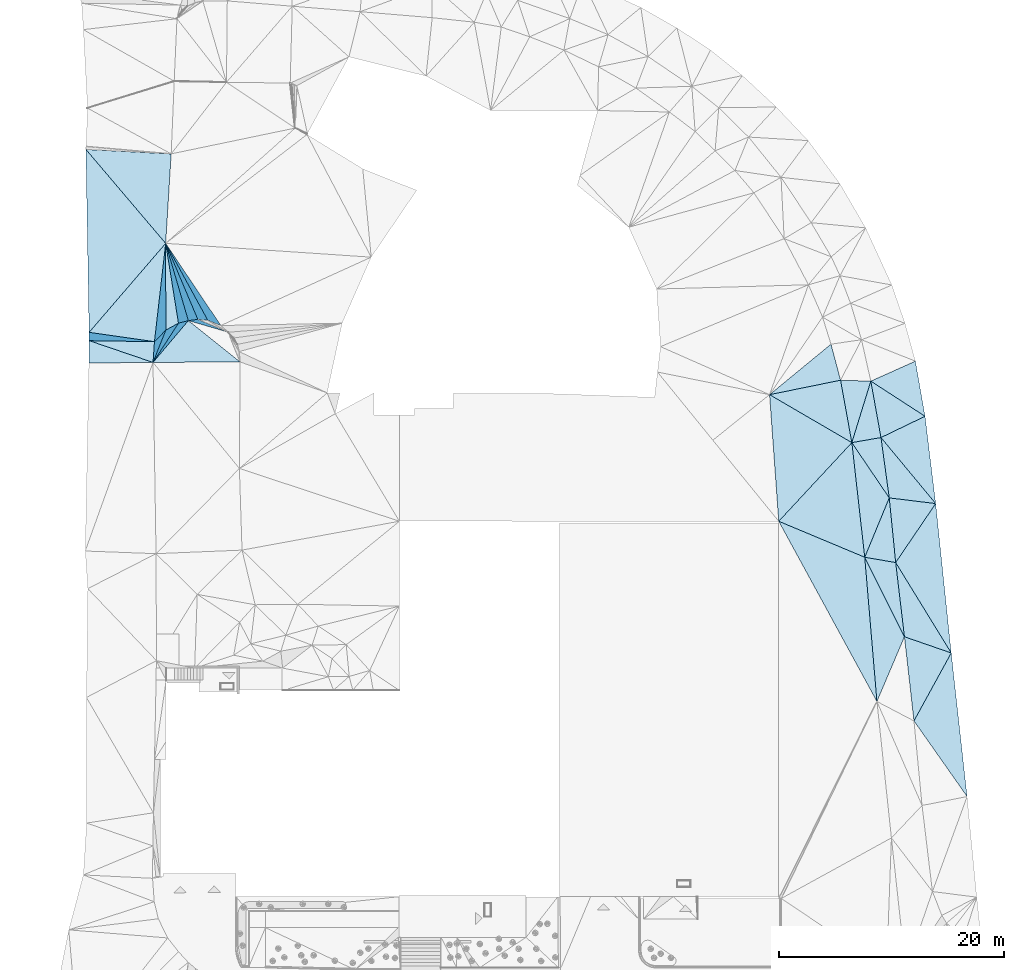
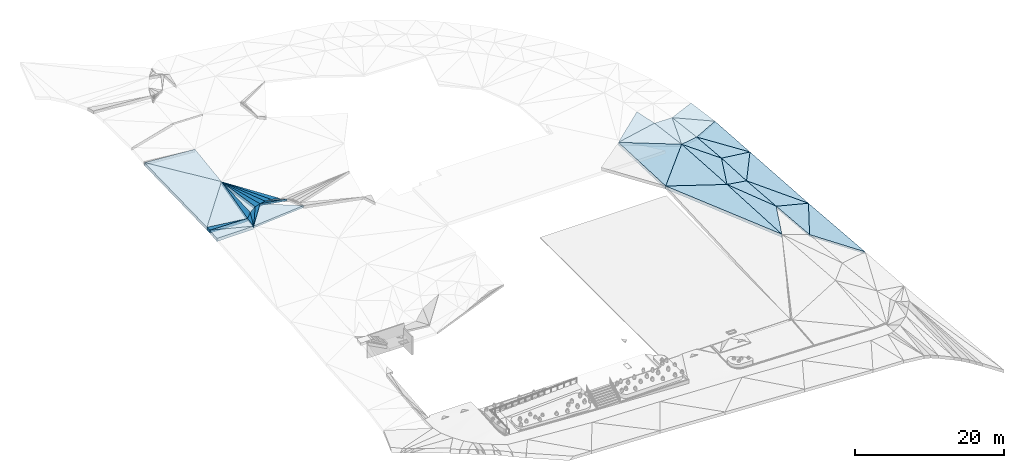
# One storey, part 6 of 23: 38 slabs, 6 elements without a shape of their own.
"""IFC2X3 building model written with IfcOpenShell, lengths in metres."""

from ifc_helpers import new_model, entity, si_unit, converted_unit, direction, frame, origin, place, context, subcontext, project, spatial, polyline, outline, extrude, material, layer, layer_set, type_object, element, aggregate, save


model = new_model("IFC2X3")

# Units and contexts
model_context = context("Model", 3, precision=1e-05, world=origin(), true_north=direction((0.7716245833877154, 0.6360782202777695)))
body_context = subcontext(model_context, "Body", "Model", "MODEL_VIEW")
ifc_project = project(units=[si_unit("LENGTHUNIT", "METRE"), converted_unit("PLANEANGLEUNIT", "DEGREE", entity("IfcPlaneAngleMeasure", 0.017453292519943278), si_unit("PLANEANGLEUNIT", "RADIAN"), dimensions=[0, 0, 0, 0, 0, 0, 0]), si_unit("AREAUNIT", "SQUARE_METRE")], contexts=[model_context])

# Site, building, storey
site_placement = place(None, origin())
site = spatial("IfcSite", under=ifc_project, at=site_placement, Name="Default", CompositionType="ELEMENT")
building_placement = place(site_placement, origin())
building = spatial("IfcBuilding", under=site, at=building_placement, Name="<Building Name>", CompositionType="ELEMENT")
storey_placement = place(building_placement, origin())
storey = spatial("IfcBuildingStorey", under=building, at=storey_placement, Name="00 - HAV", CompositionType="ELEMENT", Elevation=0.0)

# Slabs
slab_1_placement = place(storey_placement, frame((227.93461709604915, 49.93152636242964, 29.770000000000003)))
slab_1 = element("IfcSlab", 1, at=slab_1_placement, inside=storey, Name="Floor:771 Grøntarealer", ObjectType="Floor:771 Grøntarealer", PredefinedType="NOTDEFINED")
ifc_material_1 = material(Name="815 - Terrain, Grøntareal")
ifc_layer_1 = layer(ifc_material_1, 0.02)
ifc_material_2 = material(Name="Site - Soil - Jordlag")
ifc_layer_2 = layer(ifc_material_2, 0.30000000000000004)
ifc_layer_set_1 = layer_set([ifc_layer_1, ifc_layer_2], Name="Floor:771 Grøntarealer")
slab_type_1 = type_object("IfcSlabType", Name="Floor:771 Grøntarealer", PredefinedType="NOTDEFINED")
slab_2_placement = place(slab_1_placement, origin())
slab_2 = element("IfcSlab", 2, at=slab_2_placement, type_object=slab_type_1, material=ifc_layer_set_1, Name="Floor:771 Grøntarealer", ObjectType="Floor:771 Grøntarealer", PredefinedType="NOTDEFINED", context=body_context, shape_type="SweptSolid", body=[
    extrude(outline(polyline([(2.5003155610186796, -2.0881089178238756), (1.642158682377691, 2.813377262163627), (-2.31831809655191, 1.0486042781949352), (2.5003155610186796, -2.0881089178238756)])), frame((60.53809628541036, 47.984355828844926, 3.342872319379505), z_axis=(0.042604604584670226, -0.055747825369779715, 0.9975354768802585), x_axis=(0.9990920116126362, 0.002377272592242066, -0.042538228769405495)), (0.042538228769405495, -0.055798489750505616, -0.9975354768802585), 0.3200000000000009),
])
slab_3_placement = place(slab_1_placement, origin())
slab_3 = element("IfcSlab", 3, at=slab_3_placement, type_object=slab_type_1, material=ifc_layer_set_1, Name="Floor:771 Grøntarealer", ObjectType="Floor:771 Grøntarealer", PredefinedType="NOTDEFINED", context=body_context, shape_type="SweptSolid", body=[
    extrude(outline(polyline([(3.4238698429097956, -0.013117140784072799), (-1.3917027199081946, 3.128293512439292), (-0.48861418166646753, -1.9016797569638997), (3.4238698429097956, -0.013117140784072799)])), frame((59.61320611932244, 45.911691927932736, 3.200811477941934), z_axis=(0.023360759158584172, -0.08526147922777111, 0.9960847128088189), x_axis=(0.9997271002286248, 0.0019923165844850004, -0.023275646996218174)), (0.023275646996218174, -0.08528475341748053, -0.9960847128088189), 0.3200000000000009),
])
slab_4_placement = place(slab_1_placement, origin())
slab_4 = element("IfcSlab", 4, at=slab_4_placement, type_object=slab_type_1, material=ifc_layer_set_1, Name="Floor:771 Grøntarealer", ObjectType="Floor:771 Grøntarealer", PredefinedType="NOTDEFINED", context=body_context, shape_type="SweptSolid", body=[
    extrude(outline(polyline([(0.3444521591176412, 4.282789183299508), (-3.567900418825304, 2.3939542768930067), (1.2892496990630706, -3.494058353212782), (0.3444521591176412, 4.282789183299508)])), frame((62.69177186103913, 41.636535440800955, 2.775384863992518), z_axis=(0.02187612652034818, -0.08219891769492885, 0.9963758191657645), x_axis=(0.9997606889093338, 0.0017986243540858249, -0.021802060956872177)), (0.021802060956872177, -0.08221859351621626, -0.9963758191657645), 0.3200000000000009),
])
slab_5_placement = place(slab_1_placement, origin())
slab_5 = element("IfcSlab", 5, at=slab_5_placement, type_object=slab_type_1, material=ifc_layer_set_1, Name="Floor:771 Grøntarealer", ObjectType="Floor:771 Grøntarealer", PredefinedType="NOTDEFINED", context=body_context, shape_type="SweptSolid", body=[
    extrude(outline(polyline([(-2.428546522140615, 2.944029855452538), (-1.6938333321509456, -2.4316000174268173), (2.4285465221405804, -2.9440298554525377), (-2.428546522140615, 2.944029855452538)])), frame((61.55271915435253, 41.086296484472, 2.755000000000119), z_axis=(0.021332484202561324, -0.08264692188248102, 0.9963505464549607), x_axis=(0.9997724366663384, 0.0017634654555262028, -0.021259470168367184)), (0.021259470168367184, -0.08266573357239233, -0.9963505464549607), 0.3200000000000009),
])
slab_6_placement = place(slab_1_placement, origin())
slab_6 = element("IfcSlab", 6, at=slab_6_placement, type_object=slab_type_1, material=ifc_layer_set_1, Name="Floor:771 Grøntarealer", ObjectType="Floor:771 Grøntarealer", PredefinedType="NOTDEFINED", context=body_context, shape_type="SweptSolid", body=[
    extrude(outline(polyline([(-2.3011555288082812, 2.6768498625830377), (-1.7311073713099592, -3.076379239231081), (1.8213593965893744, 2.1655078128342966), (-2.3011555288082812, 2.6768498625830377)])), frame((62.1598277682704, 35.99360411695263, 2.348247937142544), z_axis=(0.022816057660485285, -0.07072904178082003, 0.9972345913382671), x_axis=(0.9997396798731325, 0.001614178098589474, -0.022758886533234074)), (0.022758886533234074, -0.07074745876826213, -0.9972345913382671), 0.3200000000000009),
])
slab_7_placement = place(slab_1_placement, origin())
slab_7 = element("IfcSlab", 7, at=slab_7_placement, type_object=slab_type_1, material=ifc_layer_set_1, Name="Floor:771 Grøntarealer", ObjectType="Floor:771 Grøntarealer", PredefinedType="NOTDEFINED", context=body_context, shape_type="SweptSolid", body=[
    extrude(outline(polyline([(-2.4657519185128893, 4.021817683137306), (-1.6865667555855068, -2.581383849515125), (2.4657519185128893, -4.021817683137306), (-2.4657519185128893, 4.021817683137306)])), frame((62.894919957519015, 28.909059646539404, 1.9049999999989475), z_axis=(0.0015599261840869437, -0.06493616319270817, 0.9978882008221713), x_axis=(0.99999878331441, 0.00010129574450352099, -0.0015566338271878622)), (0.0015566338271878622, -0.06493624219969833, -0.9978882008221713), 0.3200000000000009),
])
slab_8_placement = place(slab_1_placement, origin())
slab_8 = element("IfcSlab", 8, at=slab_8_placement, type_object=slab_type_1, material=ifc_layer_set_1, Name="Floor:771 Grøntarealer", ObjectType="Floor:771 Grøntarealer", PredefinedType="NOTDEFINED", context=body_context, shape_type="SweptSolid", body=[
    extrude(outline(polyline([(-4.241662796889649, 1.4005522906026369), (0.6900011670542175, -6.6429849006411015), (-0.6900011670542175, 6.642984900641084), (-4.241662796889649, 1.4005522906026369)])), frame((64.67069095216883, 31.526302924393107, 2.04999999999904), z_axis=(0.00820795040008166, -0.0608662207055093, 0.9981121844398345), x_axis=(0.9999663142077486, 0.0004996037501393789, -0.008192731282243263)), (0.008192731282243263, -0.06086827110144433, -0.9981121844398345), 0.3200000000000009),
])
slab_9_placement = place(slab_1_placement, origin())
slab_9 = element("IfcSlab", 9, at=slab_9_placement, type_object=slab_type_1, material=ifc_layer_set_1, Name="Floor:771 Grøntarealer", ObjectType="Floor:771 Grøntarealer", PredefinedType="NOTDEFINED", context=body_context, shape_type="SweptSolid", body=[
    extrude(outline(polyline([(-2.391733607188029, 3.5180315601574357), (-1.5480898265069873, -3.9623671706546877), (1.7606380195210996, 2.0777503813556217), (-2.391733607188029, 3.5180315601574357)])), frame((63.60005545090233, 22.820780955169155, 1.5366478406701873), z_axis=(0.005285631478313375, -0.05421391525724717, 0.9985153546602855), x_axis=(0.9999860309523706, 0.0002865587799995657, -0.0052778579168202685)), (0.0052778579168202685, -0.054214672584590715, -0.9985153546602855), 0.3200000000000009),
])
slab_10_placement = place(slab_1_placement, origin())
slab_10 = element("IfcSlab", 10, at=slab_10_placement, type_object=slab_type_1, material=ifc_layer_set_1, Name="Floor:771 Grøntarealer", ObjectType="Floor:771 Grøntarealer", PredefinedType="NOTDEFINED", context=body_context, shape_type="SweptSolid", body=[
    extrude(outline(polyline([(-4.012924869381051, 0.34217538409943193), (0.7041724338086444, -6.382279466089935), (-0.7041724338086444, 6.382279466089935), (-4.012924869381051, 0.34217538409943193)])), frame((66.06482624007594, 18.523579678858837, 1.2849999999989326), z_axis=(0.006542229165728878, -0.05490085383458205, 0.9984703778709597), x_axis=(0.9999785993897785, 0.0003591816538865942, -0.006532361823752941)), (0.006532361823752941, -0.054902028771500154, -0.9984703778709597), 0.3200000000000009),
])
aggregate(slab_1, [slab_2, slab_3, slab_4, slab_5, slab_6, slab_7, slab_8, slab_9, slab_10])

slab_11_placement = place(storey_placement, frame((222.4392111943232, 65.35219263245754, 32.77999999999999)))
slab_11 = element("IfcSlab", 11, at=slab_11_placement, inside=storey, Name="Floor:771 Grøntarealer", ObjectType="Floor:771 Grøntarealer", PredefinedType="NOTDEFINED")
slab_12_placement = place(slab_11_placement, origin())
slab_12 = element("IfcSlab", 12, at=slab_12_placement, type_object=slab_type_1, material=ifc_layer_set_1, Name="Floor:771 Grøntarealer", ObjectType="Floor:771 Grøntarealer", PredefinedType="NOTDEFINED", context=body_context, shape_type="SweptSolid", body=[
    extrude(outline(polyline([(3.8750408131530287, 0.026621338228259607), (-0.7303296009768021, 3.689033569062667), (-3.8750408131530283, -0.026621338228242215), (3.8750408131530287, 0.026621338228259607)])), frame((3.863046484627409, 35.287339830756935, 4.375000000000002), z_axis=(-0.07861917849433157, -0.014163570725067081, 0.9968041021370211), x_axis=(0.9969047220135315, -0.0011169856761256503, 0.07861124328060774)), (-0.07861124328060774, -0.014207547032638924, -0.9968041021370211), 0.3200000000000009),
])
slab_13_placement = place(slab_11_placement, origin())
slab_13 = element("IfcSlab", 13, at=slab_13_placement, type_object=slab_type_1, material=ifc_layer_set_1, Name="Floor:771 Grøntarealer", ObjectType="Floor:771 Grøntarealer", PredefinedType="NOTDEFINED", context=body_context, shape_type="SweptSolid", body=[
    extrude(outline(polyline([(1.7770892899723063, -0.5063631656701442), (-0.9331090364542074, 0.6225411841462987), (-1.777089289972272, 0.5063631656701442), (1.7770892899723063, -0.5063631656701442)])), frame((4.907486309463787, 38.46161068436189, 4.455000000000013), z_axis=(-0.07175196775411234, -0.08286621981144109, 0.9939742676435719), x_axis=(0.9974225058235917, -0.0059611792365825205, 0.07150391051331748)), (-0.07150391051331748, -0.08308035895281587, -0.9939742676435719), 0.3200000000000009),
])
slab_14_placement = place(slab_11_placement, origin())
slab_14 = element("IfcSlab", 14, at=slab_14_placement, type_object=slab_type_1, material=ifc_layer_set_1, Name="Floor:771 Grøntarealer", ObjectType="Floor:771 Grøntarealer", PredefinedType="NOTDEFINED", context=body_context, shape_type="SweptSolid", body=[
    extrude(outline(polyline([(1.5677125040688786, 1.8617471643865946), (0.6931457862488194, 1.631892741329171), (-1.5677125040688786, -1.8617471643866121), (1.5677125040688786, 1.8617471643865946)])), frame((1.5674887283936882, 37.12093318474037, 4.220000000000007), z_axis=(-0.016895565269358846, -0.06636421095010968, 0.9976524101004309), x_axis=(0.999857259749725, -0.001121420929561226, 0.016858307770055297)), (-0.016858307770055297, -0.06637368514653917, -0.9976524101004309), 0.3200000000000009),
])
slab_15_placement = place(slab_11_placement, origin())
slab_15 = element("IfcSlab", 15, at=slab_15_placement, type_object=slab_type_1, material=ifc_layer_set_1, Name="Floor:771 Grøntarealer", ObjectType="Floor:771 Grøntarealer", PredefinedType="NOTDEFINED", context=body_context, shape_type="SweptSolid", body=[
    extrude(outline(polyline([(1.1437242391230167, 1.7381440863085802), (0.0054258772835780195, 1.1257089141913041), (-1.1437242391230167, -1.7381440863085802), (1.1437242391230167, 1.7381440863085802)])), frame((1.1302677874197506, 37.00674978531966, 4.205000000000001), z_axis=(-0.15294610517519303, 0.022675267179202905, 0.9879743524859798), x_axis=(0.9882345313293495, 0.003509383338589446, 0.15290583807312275)), (-0.15290583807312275, 0.02294522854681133, -0.9879743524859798), 0.3200000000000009),
])
slab_16_placement = place(slab_11_placement, origin())
slab_16 = element("IfcSlab", 16, at=slab_16_placement, type_object=slab_type_1, material=ifc_layer_set_1, Name="Floor:771 Grøntarealer", ObjectType="Floor:771 Grøntarealer", PredefinedType="NOTDEFINED", context=body_context, shape_type="SweptSolid", body=[
    extrude(outline(polyline([(0.5681071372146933, 1.4345048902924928), (-0.4404230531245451, 0.4094844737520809), (-0.5681071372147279, -1.4345048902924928), (0.5681071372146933, 1.4345048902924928)])), frame((0.5678149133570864, 36.698615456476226, 4.125000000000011), z_axis=(0.03207021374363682, -0.05099873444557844, 0.9981836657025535), x_axis=(0.999485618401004, 0.0016363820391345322, -0.03202843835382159)), (0.03202843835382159, -0.05102498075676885, -0.9981836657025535), 0.3200000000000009),
])
aggregate(slab_11, [slab_12, slab_13, slab_14, slab_15, slab_16])

slab_17_placement = place(storey_placement, frame((272.13534237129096, 46.77280201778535, 29.448733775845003)))
slab_17 = element("IfcSlab", 17, at=slab_17_placement, inside=storey, Name="Floor:761 Asfalt - Kjørearealer", ObjectType="Floor:761 Asfalt - Kjørearealer", PredefinedType="NOTDEFINED")
ifc_material_3 = material(Name="Site - Asphalt - Asfaltbetong")
ifc_layer_3 = layer(ifc_material_3, 0.03)
ifc_material_4 = material(Name="A_Default_Building_Part")
ifc_layer_4 = layer(ifc_material_4, 0.07)
ifc_material_5 = material(Name="Site - Gravel - Stabilitet grus")
ifc_layer_5 = layer(ifc_material_5, 0.2)
ifc_material_6 = material(Name="Site - Gravel - Bunnsikringsgrus")
ifc_layer_6 = layer(ifc_material_6, 0.2)
ifc_layer_set_2 = layer_set([ifc_layer_3, ifc_layer_4, ifc_layer_5, ifc_layer_6], Name="Floor:761 Asfalt - Kjørearealer")
slab_type_2 = type_object("IfcSlabType", Name="Floor:761 Asfalt - Kjørearealer", PredefinedType="NOTDEFINED")
slab_18_placement = place(slab_17_placement, origin())
slab_18 = element("IfcSlab", 18, at=slab_18_placement, type_object=slab_type_2, material=ifc_layer_set_2, Name="Floor:761 Asfalt - Kjørearealer", ObjectType="Floor:761 Asfalt - Kjørearealer", PredefinedType="NOTDEFINED", context=body_context, shape_type="SweptSolid", body=[
    extrude(outline(polyline([(4.362104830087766, -8.021154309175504), (3.278479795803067, 4.806521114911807), (-4.362104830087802, 8.021154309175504), (4.362104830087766, -8.021154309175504)])), frame((10.206067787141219, 31.744942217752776, 2.4362662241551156), z_axis=(0.0396923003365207, -0.055075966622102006, 0.997692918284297), x_axis=(0.9992119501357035, 0.002187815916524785, -0.039631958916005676)), (0.039631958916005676, -0.05511940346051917, -0.997692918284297), 0.49999999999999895),
])
slab_19_placement = place(slab_17_placement, origin())
slab_19 = element("IfcSlab", 19, at=slab_19_placement, type_object=slab_type_2, material=ifc_layer_set_2, Name="Floor:761 Asfalt - Kjørearealer", ObjectType="Floor:761 Asfalt - Kjørearealer", PredefinedType="NOTDEFINED", context=body_context, shape_type="SweptSolid", body=[
    extrude(outline(polyline([(4.165779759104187, -4.700789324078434), (3.02104669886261, 5.506761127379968), (-3.4725427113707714, -1.4807846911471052), (4.165779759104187, -4.700789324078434)])), frame((9.31823430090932, 41.229143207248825, 3.0535015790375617), z_axis=(0.03136888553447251, -0.07482850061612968, 0.9967029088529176), x_axis=(0.9995078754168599, 0.0023484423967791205, -0.03128085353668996)), (0.03128085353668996, -0.07486534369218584, -0.9967029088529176), 0.49999999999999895),
])
slab_20_placement = place(slab_17_placement, origin())
slab_20 = element("IfcSlab", 20, at=slab_20_placement, type_object=slab_type_2, material=ifc_layer_set_2, Name="Floor:761 Asfalt - Kjørearealer", ObjectType="Floor:761 Asfalt - Kjørearealer", PredefinedType="NOTDEFINED", context=body_context, shape_type="SweptSolid", body=[
    extrude(outline(polyline([(3.6659384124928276, -2.2067337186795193), (2.6647429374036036, 3.3478236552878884), (-3.6391606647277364, 2.0581727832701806), (3.6659384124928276, -2.2067337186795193)])), frame((8.67192549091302, 48.929239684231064, 3.52201656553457), z_axis=(-0.006163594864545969, -0.07851996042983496, 0.9968934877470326), x_axis=(0.9999810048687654, -0.000483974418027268, 0.0061445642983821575)), (-0.0061445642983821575, -0.07852145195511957, -0.9968934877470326), 0.49999999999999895),
])
slab_21_placement = place(slab_17_placement, origin())
slab_21 = element("IfcSlab", 21, at=slab_21_placement, type_object=slab_type_2, material=ifc_layer_set_2, Name="Floor:761 Asfalt - Kjørearealer", ObjectType="Floor:761 Asfalt - Kjørearealer", PredefinedType="NOTDEFINED", context=body_context, shape_type="SweptSolid", body=[
    extrude(outline(polyline([(5.999296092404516, 1.8874071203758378), (-1.305923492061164, 6.152107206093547), (-0.49132802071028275, -5.102893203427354), (5.999296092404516, 1.8874071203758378)])), frame((6.338711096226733, 44.840141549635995, 3.320592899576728), z_axis=(0.008424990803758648, -0.05358733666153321, 0.9985276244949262), x_axis=(0.9999645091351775, 0.00045148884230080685, -0.00841288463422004)), (0.00841288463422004, -0.05358923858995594, -0.9985276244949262), 0.49999999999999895),
])
slab_22_placement = place(slab_17_placement, origin())
slab_22 = element("IfcSlab", 22, at=slab_22_placement, type_object=slab_type_2, material=ifc_layer_set_2, Name="Floor:761 Asfalt - Kjørearealer", ObjectType="Floor:761 Asfalt - Kjørearealer", PredefinedType="NOTDEFINED", context=body_context, shape_type="SweptSolid", body=[
    extrude(outline(polyline([(3.5299476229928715, -0.7831041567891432), (2.6801789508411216, 2.427019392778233), (-2.7739486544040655, -2.0727908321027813), (3.5299476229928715, -0.7831041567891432)])), frame((7.806733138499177, 53.04774037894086, 3.8424728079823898), z_axis=(-0.005972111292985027, -0.07945311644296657, 0.9968207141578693), x_axis=(0.9999821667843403, -0.0004745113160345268, 0.005953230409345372)), (-0.005953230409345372, -0.07945453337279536, -0.9968207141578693), 0.49999999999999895),
])
aggregate(slab_17, [slab_18, slab_19, slab_20, slab_21, slab_22])

slab_23_placement = place(storey_placement, frame((210.63176110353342, 32.75602782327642, 31.369999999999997)))
slab_23 = element("IfcSlab", 23, at=slab_23_placement, inside=storey, Name="Floor:761 Asfalt - Kjørearealer", ObjectType="Floor:761 Asfalt - Kjørearealer", PredefinedType="NOTDEFINED")
slab_24_placement = place(slab_23_placement, origin())
slab_24 = element("IfcSlab", 24, at=slab_24_placement, type_object=slab_type_2, material=ifc_layer_set_2, Name="Floor:761 Asfalt - Kjørearealer", ObjectType="Floor:761 Asfalt - Kjørearealer", PredefinedType="NOTDEFINED", context=body_context, shape_type="SweptSolid", body=[
    extrude(outline(polyline([(-2.9011296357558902, 0.41580865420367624), (-2.887151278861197, -0.3252888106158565), (2.9011296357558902, -0.41580865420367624), (-2.9011296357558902, 0.41580865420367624)])), frame((9.034000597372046, 70.11732337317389, 5.609999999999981), z_axis=(0.0065237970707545, -0.05073859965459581, 0.998690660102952), x_axis=(0.9999787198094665, 0.00033101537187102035, -0.0065153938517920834)), (0.0065153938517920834, -0.05073967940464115, -0.998690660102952), 0.49999999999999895),
])
slab_25_placement = place(slab_23_placement, origin())
slab_25 = element("IfcSlab", 25, at=slab_25_placement, type_object=slab_type_2, material=ifc_layer_set_2, Name="Floor:761 Asfalt - Kjørearealer", ObjectType="Floor:761 Asfalt - Kjørearealer", PredefinedType="NOTDEFINED", context=body_context, shape_type="SweptSolid", body=[
    extrude(outline(polyline([(-3.5243765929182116, -3.934017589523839), (2.2779198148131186, -4.765375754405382), (3.274537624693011, 3.96981473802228), (-3.5243765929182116, -3.934017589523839)])), frame((9.657211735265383, 74.46294578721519, 5.7982776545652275), z_axis=(0.0074404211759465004, -0.0443490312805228, 0.9989883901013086), x_axis=(0.9999723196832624, 0.00032998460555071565, -0.0074331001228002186)), (0.0074331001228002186, -0.04435025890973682, -0.9989883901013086), 0.49999999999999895),
])
slab_26_placement = place(slab_23_placement, origin())
slab_26 = element("IfcSlab", 26, at=slab_26_placement, type_object=slab_type_2, material=ifc_layer_set_2, Name="Floor:761 Asfalt - Kjørearealer", ObjectType="Floor:761 Asfalt - Kjørearealer", PredefinedType="NOTDEFINED", context=body_context, shape_type="SweptSolid", body=[
    extrude(outline(polyline([(0.14173062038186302, -8.129648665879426), (6.941214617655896, -0.22630650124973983), (-0.14173062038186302, 8.129648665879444), (0.14173062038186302, -8.129648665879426)])), frame((5.991217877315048, 78.65068574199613, 6.065000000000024), z_axis=(0.014931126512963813, -0.050782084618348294, 0.9985981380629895), x_axis=(0.9998885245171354, 0.0007583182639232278, -0.014911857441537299)), (0.014911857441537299, -0.05078774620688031, -0.9985981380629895), 0.49999999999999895),
])
slab_27_placement = place(slab_23_placement, origin())
slab_27 = element("IfcSlab", 27, at=slab_27_placement, type_object=slab_type_2, material=ifc_layer_set_2, Name="Floor:761 Asfalt - Kjørearealer", ObjectType="Floor:761 Asfalt - Kjørearealer", PredefinedType="NOTDEFINED", context=body_context, shape_type="SweptSolid", body=[
    extrude(outline(polyline([(-2.8289089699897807, 1.044989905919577), (-2.8638265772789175, -0.9451069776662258), (2.8316315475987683, -0.8898191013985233), (-2.8289089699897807, 1.044989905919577)])), frame((8.975819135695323, 68.7489423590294, 5.540994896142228), z_axis=(0.0006469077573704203, -0.066493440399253, 0.9977866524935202), x_axis=(0.9999997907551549, 4.301513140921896e-05, -0.0006454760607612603)), (0.0006454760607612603, -0.06649345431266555, -0.9977866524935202), 0.49999999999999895),
])
slab_28_placement = place(slab_23_placement, origin())
slab_28 = element("IfcSlab", 28, at=slab_28_placement, type_object=slab_type_2, material=ifc_layer_set_2, Name="Floor:761 Asfalt - Kjørearealer", ObjectType="Floor:761 Asfalt - Kjørearealer", PredefinedType="NOTDEFINED", context=body_context, shape_type="SweptSolid", body=[
    extrude(outline(polyline([(-3.1191350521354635, 0.12212073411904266), (2.541525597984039, -1.8123367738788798), (2.6691467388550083, 0.03165694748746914), (-3.1191350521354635, 0.12212073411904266)])), frame((9.265978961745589, 69.67053131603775, 5.585894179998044), z_axis=(0.0065469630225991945, -0.04925861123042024, 0.9987646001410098), x_axis=(0.9999785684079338, 0.00032250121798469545, -0.006539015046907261)), (0.006539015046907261, -0.049259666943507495, -0.9987646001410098), 0.49999999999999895),
])
slab_29_placement = place(slab_23_placement, origin())
slab_29 = element("IfcSlab", 29, at=slab_29_placement, type_object=slab_type_2, material=ifc_layer_set_2, Name="Floor:761 Asfalt - Kjørearealer", ObjectType="Floor:761 Asfalt - Kjørearealer", PredefinedType="NOTDEFINED", context=body_context, shape_type="SweptSolid", body=[
    extrude(outline(polyline([(3.5406247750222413, -4.207578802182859), (4.028766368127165, 3.742831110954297), (-3.544366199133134, 4.146641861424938), (3.5406247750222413, -4.207578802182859)])), frame((9.392450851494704, 82.6302819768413, 6.216149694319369), z_axis=(0.02828799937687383, -0.03945358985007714, 0.998820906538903), x_axis=(0.9995998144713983, 0.0011165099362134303, -0.02826595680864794)), (0.02826595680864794, -0.03946938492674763, -0.998820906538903), 0.49999999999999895),
])
aggregate(slab_23, [slab_24, slab_25, slab_26, slab_27, slab_28, slab_29])

slab_30_placement = place(storey_placement, frame((222.56682960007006, 78.98489431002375, 36.43999999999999)))
slab_30 = element("IfcSlab", 30, at=slab_30_placement, inside=storey, Name="Floor:761 Asfalt - Kjørearealer", ObjectType="Floor:761 Asfalt - Kjørearealer", PredefinedType="NOTDEFINED")
slab_31_placement = place(slab_30_placement, origin())
slab_31 = element("IfcSlab", 31, at=slab_31_placement, type_object=slab_type_2, material=ifc_layer_set_2, Name="Floor:761 Asfalt - Kjørearealer", ObjectType="Floor:761 Asfalt - Kjørearealer", PredefinedType="NOTDEFINED", context=body_context, shape_type="SweptSolid", body=[
    extrude(outline(polyline([(0.0585203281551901, 4.417789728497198), (-0.9384503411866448, -4.317360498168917), (0.06994588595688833, -3.292208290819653), (0.0585203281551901, 4.417789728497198)])), frame((0.938092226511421, 27.788013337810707, 0.6755172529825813), z_axis=(0.027623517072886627, -0.04663392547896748, 0.998530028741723), x_axis=(0.9996183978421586, 0.0012886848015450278, -0.02759344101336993)), (0.02759344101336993, -0.04665172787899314, -0.998530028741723), 0.49999999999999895),
])
slab_32_placement = place(slab_30_placement, origin())
slab_32 = element("IfcSlab", 32, at=slab_32_placement, type_object=slab_type_2, material=ifc_layer_set_2, Name="Floor:761 Asfalt - Kjørearealer", ObjectType="Floor:761 Asfalt - Kjørearealer", PredefinedType="NOTDEFINED", context=body_context, shape_type="SweptSolid", body=[
    extrude(outline(polyline([(-0.5724631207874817, 3.8541537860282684), (-0.5609648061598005, -3.855844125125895), (0.5715363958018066, -3.2327542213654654), (-0.5724631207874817, 3.8541537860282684)])), frame((1.565213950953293, 28.34804749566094, 0.7654926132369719), z_axis=(-0.11562270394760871, -0.04655055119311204, 0.9922018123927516), x_axis=(0.9932932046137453, -0.0054186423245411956, 0.11549566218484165)), (-0.11549566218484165, -0.04686486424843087, -0.9922018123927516), 0.49999999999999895),
])
slab_33_placement = place(slab_30_placement, origin())
slab_33 = element("IfcSlab", 33, at=slab_33_placement, type_object=slab_type_2, material=ifc_layer_set_2, Name="Floor:761 Asfalt - Kjørearealer", ObjectType="Floor:761 Asfalt - Kjørearealer", PredefinedType="NOTDEFINED", context=body_context, shape_type="SweptSolid", body=[
    extrude(outline(polyline([(-1.0126726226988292, 3.472785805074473), (0.12403360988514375, -3.6152956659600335), (0.9987673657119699, -3.386077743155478), (-1.0126726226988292, 3.472785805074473)])), frame((2.00892494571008, 28.729254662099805, 0.7937767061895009), z_axis=(-0.02583083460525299, -0.03234587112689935, 0.999142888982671), x_axis=(0.9996663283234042, -0.0008357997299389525, 0.025817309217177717)), (-0.025817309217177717, -0.03235666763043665, -0.999142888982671), 0.49999999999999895),
])
slab_34_placement = place(slab_30_placement, origin())
slab_34 = element("IfcSlab", 34, at=slab_34_placement, type_object=slab_type_2, material=ifc_layer_set_2, Name="Floor:761 Asfalt - Kjørearealer", ObjectType="Floor:761 Asfalt - Kjørearealer", PredefinedType="NOTDEFINED", context=body_context, shape_type="SweptSolid", body=[
    extrude(outline(polyline([(-1.4304912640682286, 3.3716938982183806), (0.5862048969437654, -3.485626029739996), (1.4304912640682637, -3.3716938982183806), (-1.4304912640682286, 3.3716938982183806)])), frame((2.4228770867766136, 28.827964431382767, 0.8300000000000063), z_axis=(-0.07661346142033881, -0.047158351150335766, 0.9959450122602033), x_axis=(0.9970608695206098, -0.003623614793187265, 0.0765277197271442)), (-0.0765277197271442, -0.04729736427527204, -0.9959450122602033), 0.49999999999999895),
])
slab_35_placement = place(slab_30_placement, origin())
slab_35 = element("IfcSlab", 35, at=slab_35_placement, type_object=slab_type_2, material=ifc_layer_set_2, Name="Floor:761 Asfalt - Kjørearealer", ObjectType="Floor:761 Asfalt - Kjørearealer", PredefinedType="NOTDEFINED", context=body_context, shape_type="SweptSolid", body=[
    extrude(outline(polyline([(-1.8734803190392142, 3.419571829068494), (0.9799869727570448, -3.326999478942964), (1.8734803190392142, -3.419571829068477), (-1.8734803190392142, 3.419571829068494)])), frame((2.869483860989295, 28.781409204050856, 0.8400000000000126), z_axis=(-0.02502404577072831, -0.02539491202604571, 0.99936424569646), x_axis=(0.9996868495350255, -0.000635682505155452, 0.025015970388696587)), (-0.025015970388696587, -0.025402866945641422, -0.99936424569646), 0.49999999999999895),
])
slab_36_placement = place(slab_30_placement, origin())
slab_36 = element("IfcSlab", 36, at=slab_36_placement, type_object=slab_type_2, material=ifc_layer_set_2, Name="Floor:761 Asfalt - Kjørearealer", ObjectType="Floor:761 Asfalt - Kjørearealer", PredefinedType="NOTDEFINED", context=body_context, shape_type="SweptSolid", body=[
    extrude(outline(polyline([(-2.449731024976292, 3.6443439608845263), (1.2989143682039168, -3.1938764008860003), (2.449731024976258, -3.6443439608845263), (-2.449731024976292, 3.6443439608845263)])), frame((3.44445347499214, 28.555555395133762, 0.8550000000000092), z_axis=(-0.039042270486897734, -0.03306459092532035, 0.9986903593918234), x_axis=(0.999237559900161, -0.0012919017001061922, 0.03902089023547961)), (-0.03902089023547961, -0.03308981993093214, -0.9986903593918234), 0.49999999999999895),
])
aggregate(slab_30, [slab_31, slab_32, slab_33, slab_34, slab_35, slab_36])

slab_37_placement = place(storey_placement, frame((224.56733296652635, 45.19076679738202, 29.34)))
slab_37 = element("IfcSlab", 37, at=slab_37_placement, inside=storey, Name="Floor:761 Asfalt - Gangarealer", ObjectType="Floor:761 Asfalt - Gangarealer", PredefinedType="NOTDEFINED")
ifc_material_7 = material(Name="Site - Aspahlt - Pulverasfalt")
ifc_layer_7 = layer(ifc_material_7, 0.025)
ifc_layer_8 = layer(ifc_material_4, 0.05)
ifc_layer_9 = layer(ifc_material_5, 0.1)
ifc_layer_10 = layer(ifc_material_6, 0.325)
ifc_layer_set_3 = layer_set([ifc_layer_7, ifc_layer_8, ifc_layer_9, ifc_layer_10], Name="Floor:761 Asfalt - Gangarealer")
slab_type_3 = type_object("IfcSlabType", Name="Floor:761 Asfalt - Gangarealer", PredefinedType="NOTDEFINED")
slab_38_placement = place(slab_37_placement, origin())
slab_38 = element("IfcSlab", 38, at=slab_38_placement, type_object=slab_type_3, material=ifc_layer_set_3, Name="Floor:761 Asfalt - Gangarealer", ObjectType="Floor:761 Asfalt - Gangarealer", PredefinedType="NOTDEFINED", context=body_context, shape_type="SweptSolid", body=[
    extrude(outline(polyline([(-1.7938043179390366, 2.544174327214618), (-0.7925796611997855, -3.0103777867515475), (0.8908650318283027, 2.4651143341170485), (-1.7938043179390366, 2.544174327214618)])), frame((60.698345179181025, 51.30989157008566, 3.7261055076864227), z_axis=(-0.009812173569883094, -0.07917329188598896, 0.9968125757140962), x_axis=(0.9999518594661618, -0.0007768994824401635, 0.00978136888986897)), (-0.00978136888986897, -0.07917710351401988, -0.9968125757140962), 0.49999999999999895),
])
slab_39_placement = place(slab_37_placement, origin())
slab_39 = element("IfcSlab", 39, at=slab_39_placement, type_object=slab_type_3, material=ifc_layer_set_3, Name="Floor:761 Asfalt - Gangarealer", ObjectType="Floor:761 Asfalt - Gangarealer", PredefinedType="NOTDEFINED", context=body_context, shape_type="SweptSolid", body=[
    extrude(outline(polyline([(-1.9396899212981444, 4.950456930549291), (-0.7951129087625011, -5.257111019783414), (1.3822439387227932, 0.02095843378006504), (-1.9396899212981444, 4.950456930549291)])), frame((61.84480334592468, 43.37711298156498, 3.0551870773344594), z_axis=(0.026675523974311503, -0.0753637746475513, 0.9967992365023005), x_axis=(0.9996441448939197, 0.0020110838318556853, -0.026599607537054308)), (0.026599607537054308, -0.0753906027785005, -0.9967992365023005), 0.49999999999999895),
])
slab_40_placement = place(slab_37_placement, origin())
slab_40 = element("IfcSlab", 40, at=slab_40_placement, type_object=slab_type_3, material=ifc_layer_set_3, Name="Floor:761 Asfalt - Gangarealer", ObjectType="Floor:761 Asfalt - Gangarealer", PredefinedType="NOTDEFINED", context=body_context, shape_type="SweptSolid", body=[
    extrude(outline(polyline([(-2.6533439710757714, 1.7962419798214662), (0.6677546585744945, -3.1338192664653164), (-0.06686807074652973, 2.2418229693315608), (-2.6533439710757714, 1.7962419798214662)])), frame((62.558870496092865, 46.52283293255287, 3.2916139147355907), z_axis=(0.014453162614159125, -0.08359421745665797, 0.9963950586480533), x_axis=(0.9998955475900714, 0.0012083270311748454, -0.014402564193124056)), (0.014402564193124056, -0.08360294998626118, -0.9963950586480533), 0.49999999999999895),
])
slab_41_placement = place(slab_37_placement, origin())
slab_41 = element("IfcSlab", 41, at=slab_41_placement, type_object=slab_type_3, material=ifc_layer_set_3, Name="Floor:761 Asfalt - Gangarealer", ObjectType="Floor:761 Asfalt - Gangarealer", PredefinedType="NOTDEFINED", context=body_context, shape_type="SweptSolid", body=[
    extrude(outline(polyline([(-0.8595745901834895, -2.740794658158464), (1.7269222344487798, -2.295335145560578), (0.8239785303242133, 2.7346641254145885), (-0.8595745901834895, -2.740794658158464)])), frame((60.765281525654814, 51.04115444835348, 3.7050000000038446), z_axis=(0.01500233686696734, -0.08677053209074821, 0.9961153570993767), x_axis=(0.999887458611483, 0.0013019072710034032, -0.014945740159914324)), (0.014945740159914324, -0.0867802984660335, -0.9961153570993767), 0.49999999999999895),
])
slab_42_placement = place(slab_37_placement, origin())
slab_42 = element("IfcSlab", 42, at=slab_42_placement, type_object=slab_type_3, material=ifc_layer_set_3, Name="Floor:761 Asfalt - Gangarealer", ObjectType="Floor:761 Asfalt - Gangarealer", PredefinedType="NOTDEFINED", context=body_context, shape_type="SweptSolid", body=[
    extrude(outline(polyline([(-1.9962447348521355, 6.291004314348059), (-0.9128874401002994, -6.536693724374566), (1.5313300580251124, -0.7860936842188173), (-1.9962447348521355, 6.291004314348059)])), frame((63.04513793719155, 31.855781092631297, 2.2640715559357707), z_axis=(0.03289253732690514, -0.05566348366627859, 0.9979076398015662), x_axis=(0.9994588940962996, 0.001831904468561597, -0.032841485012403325)), (0.032841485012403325, -0.055693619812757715, -0.9979076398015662), 0.49999999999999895),
])
slab_43_placement = place(slab_37_placement, origin())
slab_43 = element("IfcSlab", 43, at=slab_43_placement, type_object=slab_type_3, material=ifc_layer_set_3, Name="Floor:761 Asfalt - Gangarealer", ObjectType="Floor:761 Asfalt - Gangarealer", PredefinedType="NOTDEFINED", context=body_context, shape_type="SweptSolid", body=[
    extrude(outline(polyline([(-2.768760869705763, 3.0378546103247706), (0.7574944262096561, -4.039900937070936), (-0.02182002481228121, 2.563285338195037), (-2.768760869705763, 3.0378546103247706)])), frame((63.81827154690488, 35.104725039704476, 2.4382000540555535), z_axis=(0.01828126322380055, -0.06295626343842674, 0.9978488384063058), x_axis=(0.9998328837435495, 0.0011511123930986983, -0.01824498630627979)), (0.01824498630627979, -0.0629667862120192, -0.9978488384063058), 0.49999999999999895),
])
slab_44_placement = place(slab_37_placement, origin())
slab_44 = element("IfcSlab", 44, at=slab_44_placement, type_object=slab_type_3, material=ifc_layer_set_3, Name="Floor:761 Asfalt - Gangarealer", ObjectType="Floor:761 Asfalt - Gangarealer", PredefinedType="NOTDEFINED", context=body_context, shape_type="SweptSolid", body=[
    extrude(outline(polyline([(-1.848130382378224, -2.507770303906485), (0.8987405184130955, -2.9827442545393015), (0.32876001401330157, 2.770491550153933), (-1.848130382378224, -2.507770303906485)])), frame((62.897841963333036, 40.63696416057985, 2.827874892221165), z_axis=(0.016831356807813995, -0.07132903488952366, 0.9973108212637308), x_axis=(0.999858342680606, 0.0012007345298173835, -0.016788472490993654)), (0.016788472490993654, -0.07133914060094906, -0.9973108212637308), 0.49999999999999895),
])
aggregate(slab_37, [slab_38, slab_39, slab_40, slab_41, slab_42, slab_43, slab_44])

save(model, "model.ifc")
